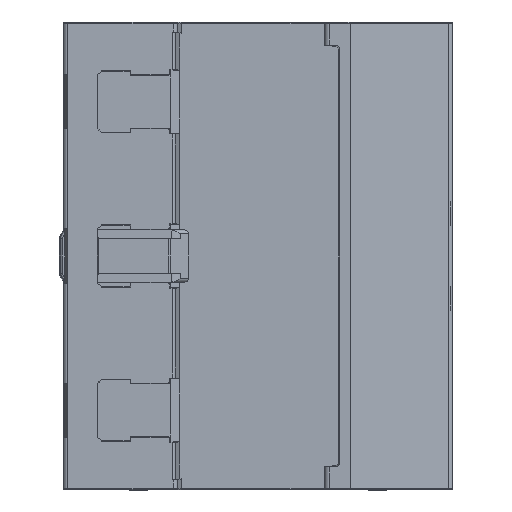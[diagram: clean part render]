
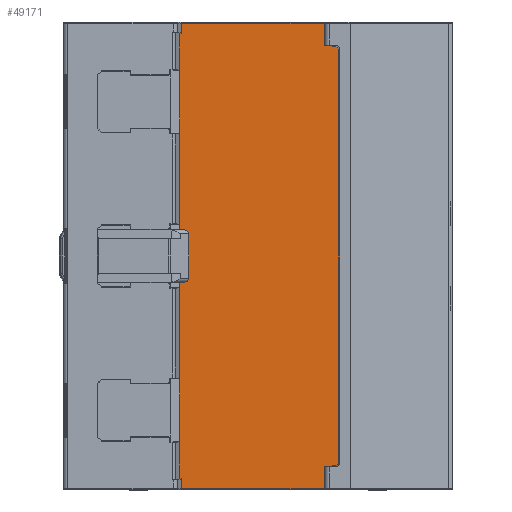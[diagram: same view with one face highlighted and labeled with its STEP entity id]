
A CAD part, front view. The second image highlights one B-rep face of the part: STEP entity #49171.
In plain terms, the highlighted planar face has unit normal (0, -1, 0).
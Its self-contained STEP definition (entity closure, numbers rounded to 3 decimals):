
#138=ELLIPSE('',#51852,1.001,1.);
#139=ELLIPSE('',#51853,1.001,1.);
#1710=FACE_OUTER_BOUND('',#4271,.T.);
#4271=EDGE_LOOP('',(#32968,#32969,#32970,#32971,#32972,#32973,#32974,#32975,
#32976,#32977,#32978,#32979,#32980,#32981));
#8263=LINE('',#71012,#14439);
#8264=LINE('',#71014,#14440);
#8265=LINE('',#71016,#14441);
#8266=LINE('',#71018,#14442);
#8267=LINE('',#71020,#14443);
#8268=LINE('',#71022,#14444);
#8269=LINE('',#71026,#14445);
#8270=LINE('',#71030,#14446);
#8271=LINE('',#71032,#14447);
#8272=LINE('',#71034,#14448);
#8273=LINE('',#71036,#14449);
#8274=LINE('',#71037,#14450);
#14439=VECTOR('',#57414,10.);
#14440=VECTOR('',#57415,10.);
#14441=VECTOR('',#57416,10.);
#14442=VECTOR('',#57417,10.);
#14443=VECTOR('',#57418,10.);
#14444=VECTOR('',#57419,10.);
#14445=VECTOR('',#57422,10.);
#14446=VECTOR('',#57425,10.);
#14447=VECTOR('',#57426,10.);
#14448=VECTOR('',#57427,10.);
#14449=VECTOR('',#57428,10.);
#14450=VECTOR('',#57429,10.);
#20308=VERTEX_POINT('',#71010);
#20309=VERTEX_POINT('',#71011);
#20310=VERTEX_POINT('',#71013);
#20311=VERTEX_POINT('',#71015);
#20312=VERTEX_POINT('',#71017);
#20313=VERTEX_POINT('',#71019);
#20314=VERTEX_POINT('',#71021);
#20315=VERTEX_POINT('',#71023);
#20316=VERTEX_POINT('',#71025);
#20317=VERTEX_POINT('',#71027);
#20318=VERTEX_POINT('',#71029);
#20319=VERTEX_POINT('',#71031);
#20320=VERTEX_POINT('',#71033);
#20321=VERTEX_POINT('',#71035);
#25211=EDGE_CURVE('',#20308,#20309,#8263,.T.);
#25212=EDGE_CURVE('',#20308,#20310,#8264,.T.);
#25213=EDGE_CURVE('',#20311,#20310,#8265,.T.);
#25214=EDGE_CURVE('',#20312,#20311,#8266,.T.);
#25215=EDGE_CURVE('',#20313,#20312,#8267,.T.);
#25216=EDGE_CURVE('',#20313,#20314,#8268,.T.);
#25217=EDGE_CURVE('',#20314,#20315,#138,.T.);
#25218=EDGE_CURVE('',#20315,#20316,#8269,.T.);
#25219=EDGE_CURVE('',#20317,#20316,#139,.T.);
#25220=EDGE_CURVE('',#20317,#20318,#8270,.T.);
#25221=EDGE_CURVE('',#20318,#20319,#8271,.T.);
#25222=EDGE_CURVE('',#20320,#20319,#8272,.T.);
#25223=EDGE_CURVE('',#20321,#20320,#8273,.T.);
#25224=EDGE_CURVE('',#20309,#20321,#8274,.T.);
#32968=ORIENTED_EDGE('',*,*,#25211,.F.);
#32969=ORIENTED_EDGE('',*,*,#25212,.T.);
#32970=ORIENTED_EDGE('',*,*,#25213,.F.);
#32971=ORIENTED_EDGE('',*,*,#25214,.F.);
#32972=ORIENTED_EDGE('',*,*,#25215,.F.);
#32973=ORIENTED_EDGE('',*,*,#25216,.T.);
#32974=ORIENTED_EDGE('',*,*,#25217,.T.);
#32975=ORIENTED_EDGE('',*,*,#25218,.T.);
#32976=ORIENTED_EDGE('',*,*,#25219,.F.);
#32977=ORIENTED_EDGE('',*,*,#25220,.T.);
#32978=ORIENTED_EDGE('',*,*,#25221,.T.);
#32979=ORIENTED_EDGE('',*,*,#25222,.F.);
#32980=ORIENTED_EDGE('',*,*,#25223,.F.);
#32981=ORIENTED_EDGE('',*,*,#25224,.F.);
#44531=PLANE('',#51851);
#49171=ADVANCED_FACE('',(#1710),#44531,.T.);
#51851=AXIS2_PLACEMENT_3D('',#71009,#57412,#57413);
#51852=AXIS2_PLACEMENT_3D('',#71024,#57420,#57421);
#51853=AXIS2_PLACEMENT_3D('',#71028,#57423,#57424);
#57412=DIRECTION('center_axis',(0.,-1.,0.));
#57413=DIRECTION('ref_axis',(1.,0.,0.));
#57414=DIRECTION('',(0.,0.,1.));
#57415=DIRECTION('',(1.,0.,0.));
#57416=DIRECTION('',(0.,0.,1.));
#57417=DIRECTION('',(-1.,0.,0.));
#57418=DIRECTION('',(0.,0.,-1.));
#57419=DIRECTION('',(1.,0.,0.));
#57420=DIRECTION('center_axis',(0.,-1.,0.));
#57421=DIRECTION('ref_axis',(0.707,0.,-0.707));
#57422=DIRECTION('',(0.,0.,1.));
#57423=DIRECTION('center_axis',(0.,1.,0.));
#57424=DIRECTION('ref_axis',(0.707,0.,0.707));
#57425=DIRECTION('',(-1.,0.,0.));
#57426=DIRECTION('',(0.,0.,1.));
#57427=DIRECTION('',(1.,0.,0.));
#57428=DIRECTION('',(0.,0.,1.));
#57429=DIRECTION('',(1.,0.,0.));
#71009=CARTESIAN_POINT('Origin',(-28.002,-1.,0.));
#71010=CARTESIAN_POINT('',(-18.,-1.,-51.4));
#71011=CARTESIAN_POINT('',(-18.,-1.,51.4));
#71012=CARTESIAN_POINT('',(-18.,-1.,26.75));
#71013=CARTESIAN_POINT('',(-17.589,-1.,-51.4));
#71014=CARTESIAN_POINT('',(-6.315,-1.,-51.4));
#71015=CARTESIAN_POINT('',(-17.589,-1.,-53.7));
#71016=CARTESIAN_POINT('',(-17.589,-1.,-53.093));
#71017=CARTESIAN_POINT('',(17.575,-1.,-53.7));
#71018=CARTESIAN_POINT('',(-0.286,-1.,-53.7));
#71019=CARTESIAN_POINT('',(17.575,-1.,-48.4));
#71020=CARTESIAN_POINT('',(17.575,-1.,-53.4));
#71021=CARTESIAN_POINT('',(17.676,-1.,-48.4));
#71022=CARTESIAN_POINT('',(-5.615,-1.,-48.4));
#71023=CARTESIAN_POINT('',(18.675,-1.,-47.401));
#71024=CARTESIAN_POINT('Origin',(17.674,-1.,-47.399));
#71025=CARTESIAN_POINT('',(18.675,-1.,47.401));
#71026=CARTESIAN_POINT('',(18.675,-1.,17.8));
#71027=CARTESIAN_POINT('',(17.676,-1.,48.4));
#71028=CARTESIAN_POINT('Origin',(17.674,-1.,47.399));
#71029=CARTESIAN_POINT('',(17.575,-1.,48.4));
#71030=CARTESIAN_POINT('',(-5.615,-1.,48.4));
#71031=CARTESIAN_POINT('',(17.575,-1.,53.7));
#71032=CARTESIAN_POINT('',(17.575,-1.,38.6));
#71033=CARTESIAN_POINT('',(-17.589,-1.,53.7));
#71034=CARTESIAN_POINT('',(-0.286,-1.,53.7));
#71035=CARTESIAN_POINT('',(-17.589,-1.,51.4));
#71036=CARTESIAN_POINT('',(-17.589,-1.,53.093));
#71037=CARTESIAN_POINT('',(-6.315,-1.,51.4));
